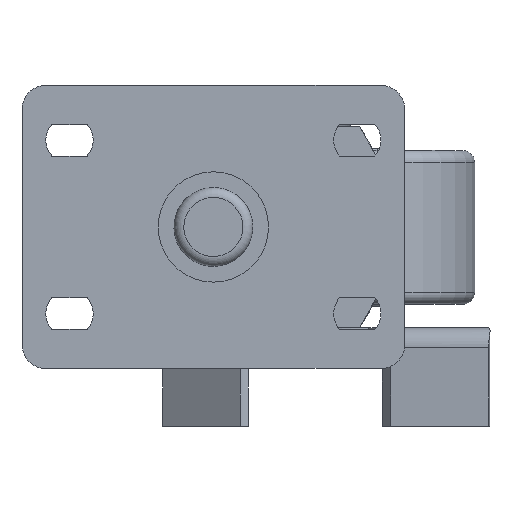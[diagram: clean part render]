
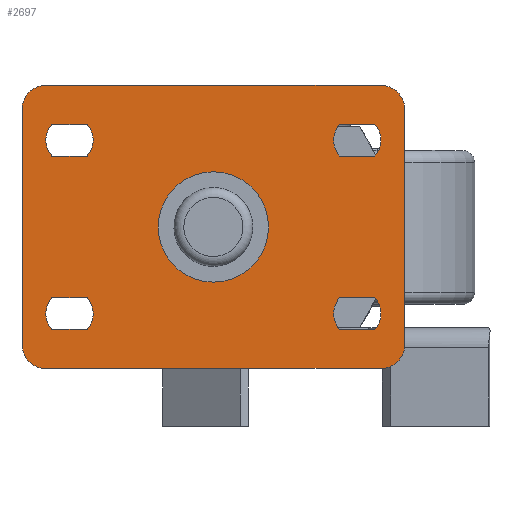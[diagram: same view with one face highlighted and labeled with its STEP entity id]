
A CAD part, top view. The second image highlights one B-rep face of the part: STEP entity #2697.
In plain terms, the highlighted planar face has unit normal (0, 0, 1).
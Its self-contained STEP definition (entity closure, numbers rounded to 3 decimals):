
#171=FACE_BOUND('',#527,.T.);
#172=FACE_BOUND('',#528,.T.);
#173=FACE_BOUND('',#529,.T.);
#174=FACE_BOUND('',#530,.T.);
#175=FACE_BOUND('',#531,.T.);
#253=PLANE('',#2912);
#341=FACE_OUTER_BOUND('',#526,.T.);
#526=EDGE_LOOP('',(#1979,#1980,#1981,#1982,#1983,#1984,#1985,#1986));
#527=EDGE_LOOP('',(#1987));
#528=EDGE_LOOP('',(#1988,#1989,#1990,#1991));
#529=EDGE_LOOP('',(#1992,#1993,#1994,#1995));
#530=EDGE_LOOP('',(#1996,#1997,#1998,#1999));
#531=EDGE_LOOP('',(#2000,#2001,#2002,#2003));
#752=LINE('',#4099,#906);
#766=LINE('',#4154,#920);
#772=LINE('',#4175,#926);
#775=LINE('',#4182,#929);
#778=LINE('',#4191,#932);
#781=LINE('',#4198,#935);
#784=LINE('',#4207,#938);
#787=LINE('',#4214,#941);
#790=LINE('',#4223,#944);
#793=LINE('',#4230,#947);
#794=LINE('',#4232,#948);
#795=LINE('',#4234,#949);
#906=VECTOR('',#3230,85.1);
#920=VECTOR('',#3276,85.1);
#926=VECTOR('',#3300,9.);
#929=VECTOR('',#3309,9.);
#932=VECTOR('',#3318,9.);
#935=VECTOR('',#3327,9.);
#938=VECTOR('',#3336,9.);
#941=VECTOR('',#3345,9.);
#944=VECTOR('',#3354,9.);
#947=VECTOR('',#3363,9.);
#948=VECTOR('',#3366,59.8);
#949=VECTOR('',#3369,59.8);
#1056=CIRCLE('',#2861,6.);
#1070=CIRCLE('',#2878,6.);
#1071=CIRCLE('',#2881,6.);
#1072=CIRCLE('',#2883,6.);
#1073=CIRCLE('',#2885,14.);
#1074=CIRCLE('',#2887,6.083);
#1075=CIRCLE('',#2890,6.083);
#1076=CIRCLE('',#2893,6.083);
#1077=CIRCLE('',#2896,6.083);
#1078=CIRCLE('',#2899,6.083);
#1079=CIRCLE('',#2902,6.083);
#1080=CIRCLE('',#2905,6.083);
#1081=CIRCLE('',#2908,6.083);
#1222=VERTEX_POINT('',#4086);
#1223=VERTEX_POINT('',#4087);
#1227=VERTEX_POINT('',#4097);
#1250=VERTEX_POINT('',#4147);
#1251=VERTEX_POINT('',#4148);
#1252=VERTEX_POINT('',#4153);
#1253=VERTEX_POINT('',#4157);
#1254=VERTEX_POINT('',#4161);
#1255=VERTEX_POINT('',#4165);
#1256=VERTEX_POINT('',#4168);
#1257=VERTEX_POINT('',#4169);
#1258=VERTEX_POINT('',#4174);
#1259=VERTEX_POINT('',#4178);
#1260=VERTEX_POINT('',#4184);
#1261=VERTEX_POINT('',#4185);
#1262=VERTEX_POINT('',#4190);
#1263=VERTEX_POINT('',#4194);
#1264=VERTEX_POINT('',#4200);
#1265=VERTEX_POINT('',#4201);
#1266=VERTEX_POINT('',#4206);
#1267=VERTEX_POINT('',#4210);
#1268=VERTEX_POINT('',#4216);
#1269=VERTEX_POINT('',#4217);
#1270=VERTEX_POINT('',#4222);
#1271=VERTEX_POINT('',#4226);
#1485=EDGE_CURVE('',#1222,#1223,#1056,.T.);
#1491=EDGE_CURVE('',#1227,#1222,#752,.T.);
#1515=EDGE_CURVE('',#1250,#1251,#1070,.T.);
#1518=EDGE_CURVE('',#1251,#1252,#766,.T.);
#1520=EDGE_CURVE('',#1252,#1253,#1071,.T.);
#1522=EDGE_CURVE('',#1254,#1227,#1072,.T.);
#1524=EDGE_CURVE('',#1255,#1255,#1073,.T.);
#1525=EDGE_CURVE('',#1256,#1257,#1074,.T.);
#1528=EDGE_CURVE('',#1257,#1258,#772,.T.);
#1530=EDGE_CURVE('',#1258,#1259,#1075,.T.);
#1532=EDGE_CURVE('',#1259,#1256,#775,.T.);
#1533=EDGE_CURVE('',#1260,#1261,#1076,.T.);
#1536=EDGE_CURVE('',#1261,#1262,#778,.T.);
#1538=EDGE_CURVE('',#1262,#1263,#1077,.T.);
#1540=EDGE_CURVE('',#1263,#1260,#781,.T.);
#1541=EDGE_CURVE('',#1264,#1265,#1078,.T.);
#1544=EDGE_CURVE('',#1265,#1266,#784,.T.);
#1546=EDGE_CURVE('',#1266,#1267,#1079,.T.);
#1548=EDGE_CURVE('',#1267,#1264,#787,.T.);
#1549=EDGE_CURVE('',#1268,#1269,#1080,.T.);
#1552=EDGE_CURVE('',#1269,#1270,#790,.T.);
#1554=EDGE_CURVE('',#1270,#1271,#1081,.T.);
#1556=EDGE_CURVE('',#1271,#1268,#793,.T.);
#1557=EDGE_CURVE('',#1253,#1254,#794,.T.);
#1558=EDGE_CURVE('',#1223,#1250,#795,.T.);
#1979=ORIENTED_EDGE('',*,*,#1485,.F.);
#1980=ORIENTED_EDGE('',*,*,#1491,.F.);
#1981=ORIENTED_EDGE('',*,*,#1522,.F.);
#1982=ORIENTED_EDGE('',*,*,#1557,.F.);
#1983=ORIENTED_EDGE('',*,*,#1520,.F.);
#1984=ORIENTED_EDGE('',*,*,#1518,.F.);
#1985=ORIENTED_EDGE('',*,*,#1515,.F.);
#1986=ORIENTED_EDGE('',*,*,#1558,.F.);
#1987=ORIENTED_EDGE('',*,*,#1524,.T.);
#1988=ORIENTED_EDGE('',*,*,#1525,.T.);
#1989=ORIENTED_EDGE('',*,*,#1528,.T.);
#1990=ORIENTED_EDGE('',*,*,#1530,.T.);
#1991=ORIENTED_EDGE('',*,*,#1532,.T.);
#1992=ORIENTED_EDGE('',*,*,#1533,.T.);
#1993=ORIENTED_EDGE('',*,*,#1536,.T.);
#1994=ORIENTED_EDGE('',*,*,#1538,.T.);
#1995=ORIENTED_EDGE('',*,*,#1540,.T.);
#1996=ORIENTED_EDGE('',*,*,#1541,.T.);
#1997=ORIENTED_EDGE('',*,*,#1544,.T.);
#1998=ORIENTED_EDGE('',*,*,#1546,.T.);
#1999=ORIENTED_EDGE('',*,*,#1548,.T.);
#2000=ORIENTED_EDGE('',*,*,#1549,.T.);
#2001=ORIENTED_EDGE('',*,*,#1552,.T.);
#2002=ORIENTED_EDGE('',*,*,#1554,.T.);
#2003=ORIENTED_EDGE('',*,*,#1556,.T.);
#2697=ADVANCED_FACE('',(#341,#171,#172,#173,#174,#175),#253,.T.);
#2861=AXIS2_PLACEMENT_3D('',#4088,#3220,#3221);
#2878=AXIS2_PLACEMENT_3D('',#4149,#3270,#3271);
#2881=AXIS2_PLACEMENT_3D('',#4158,#3280,#3281);
#2883=AXIS2_PLACEMENT_3D('',#4162,#3285,#3286);
#2885=AXIS2_PLACEMENT_3D('',#4166,#3290,#3291);
#2887=AXIS2_PLACEMENT_3D('',#4170,#3294,#3295);
#2890=AXIS2_PLACEMENT_3D('',#4179,#3304,#3305);
#2893=AXIS2_PLACEMENT_3D('',#4186,#3312,#3313);
#2896=AXIS2_PLACEMENT_3D('',#4195,#3322,#3323);
#2899=AXIS2_PLACEMENT_3D('',#4202,#3330,#3331);
#2902=AXIS2_PLACEMENT_3D('',#4211,#3340,#3341);
#2905=AXIS2_PLACEMENT_3D('',#4218,#3348,#3349);
#2908=AXIS2_PLACEMENT_3D('',#4227,#3358,#3359);
#2912=AXIS2_PLACEMENT_3D('',#4235,#3370,#3371);
#3220=DIRECTION('center_axis',(0.,0.,-1.));
#3221=DIRECTION('ref_axis',(-0.707,-0.707,0.));
#3230=DIRECTION('',(-1.,0.,0.));
#3270=DIRECTION('center_axis',(0.,0.,-1.));
#3271=DIRECTION('ref_axis',(-0.707,0.707,0.));
#3276=DIRECTION('',(1.,0.,0.));
#3280=DIRECTION('center_axis',(0.,0.,-1.));
#3281=DIRECTION('ref_axis',(0.707,0.707,0.));
#3285=DIRECTION('center_axis',(0.,0.,-1.));
#3286=DIRECTION('ref_axis',(0.707,-0.707,0.));
#3290=DIRECTION('center_axis',(0.,0.,-1.));
#3291=DIRECTION('ref_axis',(-1.,0.,0.));
#3294=DIRECTION('center_axis',(0.,0.,-1.));
#3295=DIRECTION('ref_axis',(-0.753,0.658,0.));
#3300=DIRECTION('',(1.,0.,0.));
#3304=DIRECTION('center_axis',(0.,0.,-1.));
#3305=DIRECTION('ref_axis',(0.753,-0.658,0.));
#3309=DIRECTION('',(-1.,0.,0.));
#3312=DIRECTION('center_axis',(0.,0.,-1.));
#3313=DIRECTION('ref_axis',(-0.753,0.658,0.));
#3318=DIRECTION('',(1.,0.,0.));
#3322=DIRECTION('center_axis',(0.,0.,-1.));
#3323=DIRECTION('ref_axis',(0.753,-0.658,0.));
#3327=DIRECTION('',(-1.,0.,0.));
#3330=DIRECTION('center_axis',(0.,0.,-1.));
#3331=DIRECTION('ref_axis',(0.753,-0.658,0.));
#3336=DIRECTION('',(-1.,0.,0.));
#3340=DIRECTION('center_axis',(0.,0.,-1.));
#3341=DIRECTION('ref_axis',(-0.753,0.658,0.));
#3345=DIRECTION('',(1.,0.,0.));
#3348=DIRECTION('center_axis',(0.,0.,-1.));
#3349=DIRECTION('ref_axis',(-0.753,0.658,0.));
#3354=DIRECTION('',(-1.,0.,0.));
#3358=DIRECTION('center_axis',(0.,0.,-1.));
#3359=DIRECTION('ref_axis',(0.753,-0.658,0.));
#3363=DIRECTION('',(1.,0.,0.));
#3366=DIRECTION('',(0.,-1.,0.));
#3369=DIRECTION('',(0.,1.,0.));
#3370=DIRECTION('center_axis',(0.,0.,1.));
#3371=DIRECTION('ref_axis',(1.,0.,0.));
#4086=CARTESIAN_POINT('',(-12.,-19.,4.));
#4087=CARTESIAN_POINT('',(-18.,-13.,4.));
#4088=CARTESIAN_POINT('Origin',(-12.,-13.,4.));
#4097=CARTESIAN_POINT('',(73.1,-19.,4.));
#4099=CARTESIAN_POINT('',(79.1,-19.,4.));
#4147=CARTESIAN_POINT('',(-18.,46.8,4.));
#4148=CARTESIAN_POINT('',(-12.,52.8,4.));
#4149=CARTESIAN_POINT('Origin',(-12.,46.8,4.));
#4153=CARTESIAN_POINT('',(73.1,52.8,4.));
#4154=CARTESIAN_POINT('',(-18.,52.8,4.));
#4157=CARTESIAN_POINT('',(79.1,46.8,4.));
#4158=CARTESIAN_POINT('Origin',(73.1,46.8,4.));
#4161=CARTESIAN_POINT('',(79.1,-13.,4.));
#4162=CARTESIAN_POINT('Origin',(73.1,-13.,4.));
#4165=CARTESIAN_POINT('',(44.55,16.9,4.));
#4166=CARTESIAN_POINT('Origin',(30.55,16.9,4.));
#4168=CARTESIAN_POINT('',(-10.45,-9.1,4.));
#4169=CARTESIAN_POINT('',(-10.45,-1.1,4.));
#4170=CARTESIAN_POINT('Origin',(-5.867,-5.1,4.));
#4174=CARTESIAN_POINT('',(-1.45,-1.1,4.));
#4175=CARTESIAN_POINT('',(10.05,-1.1,4.));
#4178=CARTESIAN_POINT('',(-1.45,-9.1,4.));
#4179=CARTESIAN_POINT('Origin',(-6.033,-5.1,4.));
#4182=CARTESIAN_POINT('',(14.55,-9.1,4.));
#4184=CARTESIAN_POINT('',(62.55,-9.1,4.));
#4185=CARTESIAN_POINT('',(62.55,-1.1,4.));
#4186=CARTESIAN_POINT('Origin',(67.133,-5.1,4.));
#4190=CARTESIAN_POINT('',(71.55,-1.1,4.));
#4191=CARTESIAN_POINT('',(46.55,-1.1,4.));
#4194=CARTESIAN_POINT('',(71.55,-9.1,4.));
#4195=CARTESIAN_POINT('Origin',(66.967,-5.1,4.));
#4198=CARTESIAN_POINT('',(51.05,-9.1,4.));
#4200=CARTESIAN_POINT('',(71.55,42.9,4.));
#4201=CARTESIAN_POINT('',(71.55,34.9,4.));
#4202=CARTESIAN_POINT('Origin',(66.967,38.9,4.));
#4206=CARTESIAN_POINT('',(62.55,34.9,4.));
#4207=CARTESIAN_POINT('',(51.05,34.9,4.));
#4210=CARTESIAN_POINT('',(62.55,42.9,4.));
#4211=CARTESIAN_POINT('Origin',(67.133,38.9,4.));
#4214=CARTESIAN_POINT('',(46.55,42.9,4.));
#4216=CARTESIAN_POINT('',(-1.45,42.9,4.));
#4217=CARTESIAN_POINT('',(-1.45,34.9,4.));
#4218=CARTESIAN_POINT('Origin',(-6.033,38.9,4.));
#4222=CARTESIAN_POINT('',(-10.45,34.9,4.));
#4223=CARTESIAN_POINT('',(14.55,34.9,4.));
#4226=CARTESIAN_POINT('',(-10.45,42.9,4.));
#4227=CARTESIAN_POINT('Origin',(-5.867,38.9,4.));
#4230=CARTESIAN_POINT('',(10.05,42.9,4.));
#4232=CARTESIAN_POINT('',(79.1,52.8,4.));
#4234=CARTESIAN_POINT('',(-18.,-19.,4.));
#4235=CARTESIAN_POINT('Origin',(30.55,16.9,4.));
